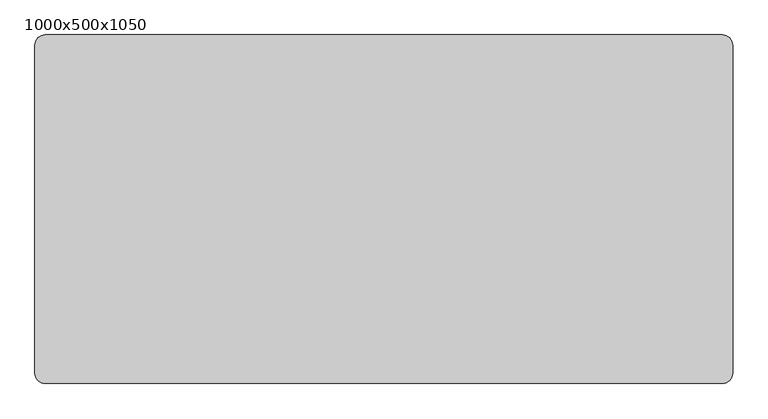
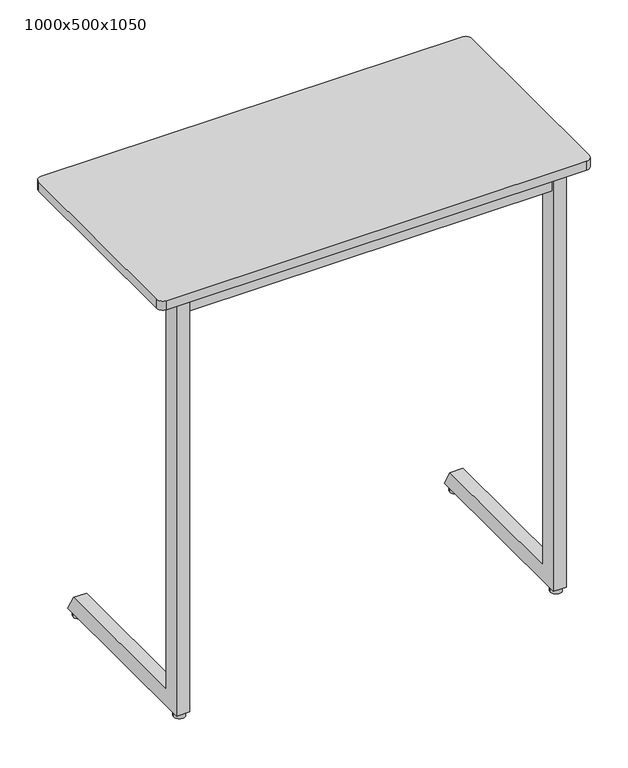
"""IFC4 building model written with IfcOpenShell, lengths in millimetres: furniture geometry, Trivia Light : 1000x500x1050."""

from ifc_helpers import new_model, si_unit, point, frame, frame_2d, origin, origin_with_axes, place, context, project, spatial, polyline, circle_curve, trimmed, segment, composite_curve, outline, extrude, source, transform, mapped, element, save


def furniture_1000x500x1050_fa04ec47(model_context):
    return source(origin(), model_context, "Body", "SweptSolid", [
        extrude(outline(polyline([(434.5100173, 1028.0), (419.9996059, 996.4981092), (54.0, 996.4977978), (54.0, 1028.0), (434.5100173, 1028.0)])), frame((-364.7535601, 0.0, 0.0), z_axis=(1.0, 0.0, 0.0), x_axis=(0.0, 1.0, 0.0)), (0.0, 0.0, 1.0), 30.0),
        extrude(outline(polyline([(1023.7997437, -367.7502136), (1000.730957, -367.7502136), (1000.730957, -399.8065042), (1005.0394353, -411.6439509), (1002.2203574, -412.6700113), (997.730957, -400.3354852), (997.730957, -364.7502136), (1023.7997437, -364.7502136), (1023.7997437, -367.7502136)])), frame((0.0, 215.0, 0.0), z_axis=(0.0, 1.0, 0.0), x_axis=(0.0, 0.0, 1.0)), (0.0, 0.0, 1.0), 30.0),
        extrude(outline(polyline([(1023.7997437, 367.7535601), (1023.7997437, 364.7535601), (997.730957, 364.7535601), (997.730957, 400.3388316), (1002.2203574, 412.6733577), (1005.0394353, 411.6472973), (1000.730957, 399.8098507), (1000.730957, 367.7535601), (1023.7997437, 367.7535601)])), frame((0.0, 215.0, 0.0), z_axis=(0.0, 1.0, 0.0), x_axis=(0.0, 0.0, 1.0)), (0.0, 0.0, 1.0), 30.0),
        extrude(outline(composite_curve([segment(trimmed(circle_curve(frame_2d((-435.0, 35.0)), 13.0), [point((-448.0, 35.0))], [point((-422.0, 35.0))], False, "CARTESIAN"), True, "CONTINUOUS"), segment(trimmed(circle_curve(frame_2d((-435.0, 35.0)), 13.0), [point((-422.0, 35.0))], [point((-448.0, 35.0))], False, "CARTESIAN"), True, "CONTINUOUS")], self_intersect=False)), origin_with_axes(), (0.0, 0.0, 1.0), 13.0905762),
        extrude(outline(composite_curve([segment(trimmed(circle_curve(frame_2d((435.0, 35.0)), 13.0), [point((422.0, 35.0))], [point((448.0, 35.0))], False, "CARTESIAN"), True, "CONTINUOUS"), segment(trimmed(circle_curve(frame_2d((435.0, 35.0)), 13.0), [point((448.0, 35.0))], [point((422.0, 35.0))], False, "CARTESIAN"), True, "CONTINUOUS")], self_intersect=False)), origin_with_axes(), (0.0, 0.0, 1.0), 13.0905762),
        extrude(outline(composite_curve([segment(trimmed(circle_curve(frame_2d((435.0, 437.5)), 13.0), [point((422.0, 437.5))], [point((448.0, 437.5))], False, "CARTESIAN"), True, "CONTINUOUS"), segment(trimmed(circle_curve(frame_2d((435.0, 437.5)), 13.0), [point((448.0, 437.5))], [point((422.0, 437.5))], False, "CARTESIAN"), True, "CONTINUOUS")], self_intersect=False)), origin_with_axes(), (0.0, 0.0, 1.0), 13.0905762),
        extrude(outline(composite_curve([segment(trimmed(circle_curve(frame_2d((-435.0, 437.5)), 13.0), [point((-448.0, 437.5))], [point((-422.0, 437.5))], False, "CARTESIAN"), True, "CONTINUOUS"), segment(trimmed(circle_curve(frame_2d((-435.0, 437.5)), 13.0), [point((-422.0, 437.5))], [point((-448.0, 437.5))], False, "CARTESIAN"), True, "CONTINUOUS")], self_intersect=False)), origin_with_axes(), (0.0, 0.0, 1.0), 13.0905762),
        extrude(outline(polyline([(434.5100173, 1028.0), (419.9996059, 996.4981092), (54.0, 996.4977978), (54.0, 1028.0), (434.5100173, 1028.0)])), frame((334.7535601, 0.0, 0.0), z_axis=(1.0, 0.0, 0.0), x_axis=(0.0, 1.0, 0.0)), (0.0, 0.0, 1.0), 30.0),
        extrude(outline(composite_curve([segment(trimmed(circle_curve(frame_2d((485.0, 485.0)), 15.0), [point((485.0, 500.0))], [point((500.0, 485.0))], False, "CARTESIAN"), True, "CONTINUOUS"), segment(polyline([(500.0, 485.0), (500.0, 15.0)]), True, "CONTINUOUS"), segment(trimmed(circle_curve(frame_2d((485.0, 15.0)), 15.0), [point((500.0, 15.0))], [point((485.0, 0.0))], False, "CARTESIAN"), True, "CONTINUOUS"), segment(polyline([(485.0, 0.0), (-485.0, 0.0)]), True, "CONTINUOUS"), segment(trimmed(circle_curve(frame_2d((-485.0, 15.0)), 15.0), [point((-485.0, 0.0))], [point((-500.0, 15.0))], False, "CARTESIAN"), True, "CONTINUOUS"), segment(polyline([(-500.0, 15.0), (-500.0, 485.0)]), True, "CONTINUOUS"), segment(trimmed(circle_curve(frame_2d((-485.0, 485.0)), 15.0), [point((-500.0, 485.0))], [point((-485.0, 500.0))], False, "CARTESIAN"), True, "CONTINUOUS"), segment(polyline([(-485.0, 500.0), (485.0, 500.0)]), True, "CONTINUOUS")], self_intersect=False)), frame((0.0, 0.0, 1028.0), z_axis=(0.0, 0.0, 1.0), x_axis=(1.0, 0.0, 0.0)), (0.0, 0.0, 1.0), 22.0),
        extrude(outline(polyline([(419.7534307, 54.0), (419.7534307, 24.0), (-419.7534307, 24.0), (-419.7534307, 54.0), (419.7534307, 54.0)])), frame((0.0, 0.0, 986.0), z_axis=(0.0, 0.0, 1.0), x_axis=(1.0, 0.0, 0.0)), (0.0, 0.0, 1.0), 42.0),
        extrude(outline(polyline([(62.0, 51.5905762), (432.1448423, 51.5905762), (454.8944033, 11.5905762), (20.0, 11.5905762), (20.0, 1028.0), (62.0, 1028.0), (62.0, 51.5905762)])), frame((-449.7535601, 0.0, 0.0), z_axis=(1.0, 0.0, 0.0), x_axis=(0.0, 1.0, 0.0)), (0.0, 0.0, 1.0), 30.0001294),
        extrude(outline(polyline([(62.0, 51.5905762), (432.1448423, 51.5905762), (454.8944033, 11.5905762), (20.0, 11.5905762), (20.0, 1028.0), (62.0, 1028.0), (62.0, 51.5905762)])), frame((419.7534307, 0.0, 0.0), z_axis=(1.0, 0.0, 0.0), x_axis=(0.0, 1.0, 0.0)), (0.0, 0.0, 1.0), 30.0001294),
    ])


if __name__ == "__main__":
    model = new_model("IFC4")
    model_context = context("Model", 3, world=origin())
    ifc_project = project(units=[si_unit("LENGTHUNIT", "METRE", prefix="MILLI")], contexts=[model_context])
    site = spatial("IfcSite", under=ifc_project)
    building = spatial("IfcBuilding", under=site)
    placement = place(None, origin())
    furniture_1000x500x1050_shape = furniture_1000x500x1050_fa04ec47(model_context)
    element("IfcFurniture", 1, ObjectType="Trivia Light : 1000x500x1050", at=placement, inside=building, context=model_context, shape_type="MappedRepresentation", body=[
        mapped(furniture_1000x500x1050_shape, transform((0.0, 0.0, 0.0), x_axis=(1.0, 0.0, 0.0), y_axis=(0.0, 1.0, 0.0), z_axis=(0.0, 0.0, 1.0))),
    ])
    save(model, "model.ifc")
